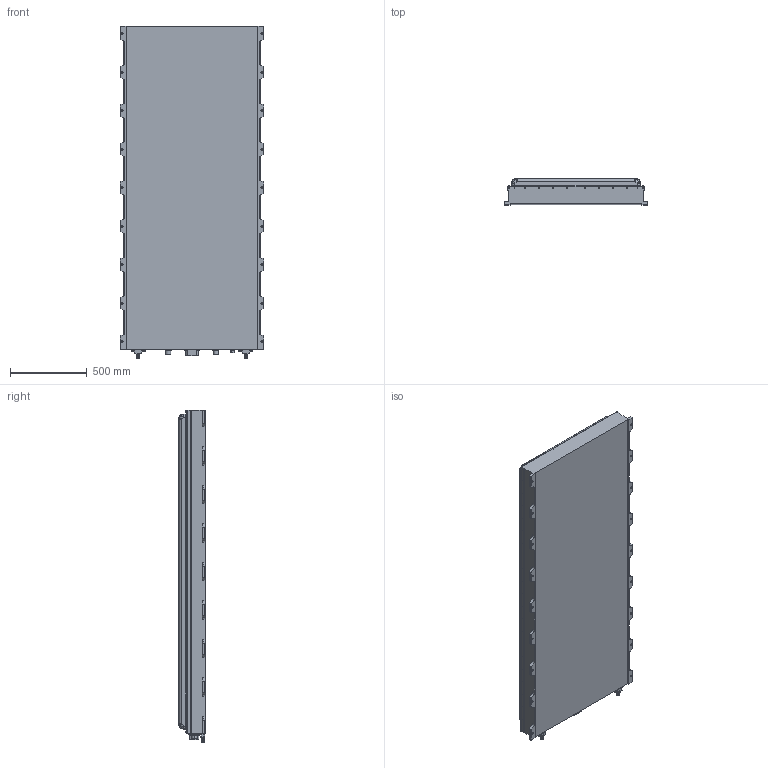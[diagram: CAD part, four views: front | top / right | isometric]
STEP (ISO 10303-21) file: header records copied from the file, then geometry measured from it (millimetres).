
FILE_DESCRIPTION (( 'STEP AP214' ), '1' );
FILE_NAME ('!ﾐﾃﾋﾑ.563565.016-003 ﾄ鈑 Slim.STEP', '2026-08-20T09:58:19', ( '' ), ( '' ), 'SwSTEP 2.0', 'SolidWorks 2022', '' );
FILE_SCHEMA (( 'AUTOMOTIVE_DESIGN' ));
Length unit declared in the file: millimetre
Products named in the file (1): !РГЛС.563565.016-003 Дзета Slim
Bounding box: 932 x 169 x 2156 mm (x, y, z)
Volume: 295483593.2 mm3; surface area: 4931293.8 mm2
Topology: 233 solids, 233 shells, 4944 faces, 11106 edges, 6715 vertices
Faces by surface type: plane 1929, cylinder 1434, cone 1188, torus 370, sphere 15, bspline 8
Entity records: 198774 total; most frequent: CARTESIAN_POINT 29832, DIRECTION 25238, ORIENTED_EDGE 21876, EDGE_CURVE 10938, AXIS2_PLACEMENT_3D 10033, VERTEX_POINT 6715, EDGE_LOOP 5403, UNCERTAINTY_MEASURE_WITH_UNIT 5179
